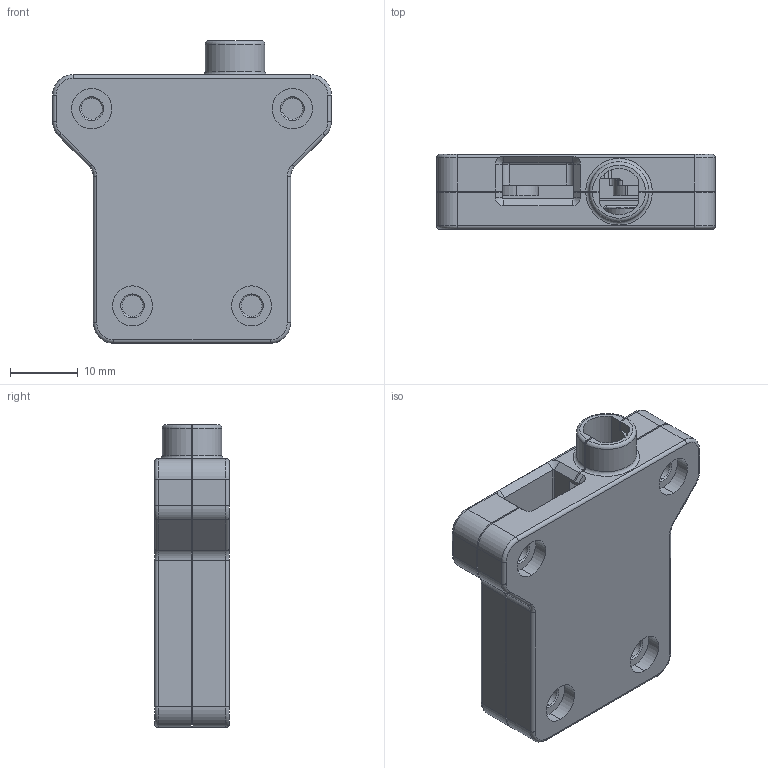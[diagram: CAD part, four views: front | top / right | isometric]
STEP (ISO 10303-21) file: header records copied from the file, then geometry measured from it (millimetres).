
FILE_DESCRIPTION (( 'STEP AP214' ), '1' );
FILE_NAME ('Here+ RTK base.STEP', '2020-11-13T08:57:59', ( 'User' ), ( 'User' ), 'SwSTEP 2.0', 'SolidWorks 2018', '' );
FILE_SCHEMA (( 'AUTOMOTIVE_DESIGN' ));
Length unit declared in the file: millimetre
Products named in the file (3): Here+ RTK base; GPS_M8P_Base_Top; GPS_M8P_Base_Bottom
Assembly tree (2 placements, depth 2):
  Here+ RTK base
    GPS_M8P_Base_Top
    GPS_M8P_Base_Bottom
Bounding box: 41 x 11 x 44.5 mm (x, y, z)
Volume: 6555.8 mm3; surface area: 8711.7 mm2
Topology: 2 solids, 2 shells, 509 faces, 1298 edges, 798 vertices
Faces by surface type: cylinder 213, plane 176, torus 82, cone 28, sphere 6, bspline 4
Entity records: 15490 total; most frequent: CARTESIAN_POINT 2814, DIRECTION 2806, ORIENTED_EDGE 2580, EDGE_CURVE 1290, AXIS2_PLACEMENT_3D 1052, VERTEX_POINT 798, VECTOR 702, LINE 702
